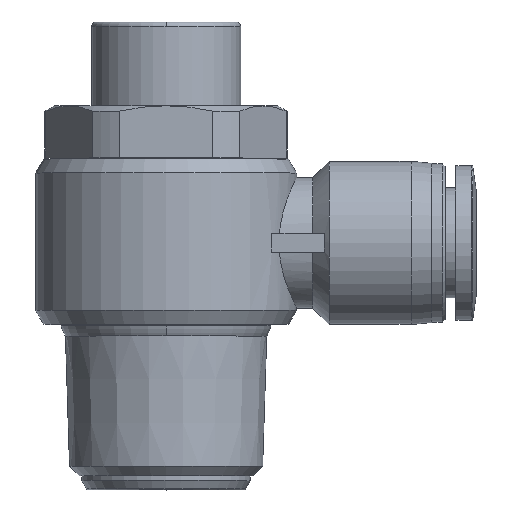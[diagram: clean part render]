
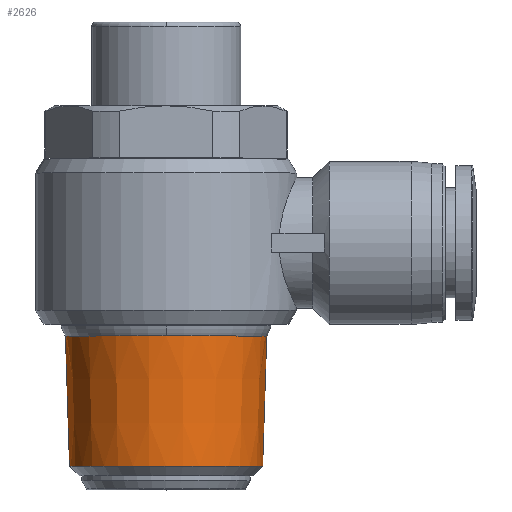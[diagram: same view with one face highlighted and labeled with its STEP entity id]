
A CAD part, top view. The second image highlights one B-rep face of the part: STEP entity #2626.
In plain terms, the highlighted conical face has half-angle 1.79 degrees and reference radius 10.582 mm.
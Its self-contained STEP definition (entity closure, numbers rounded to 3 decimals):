
#48 = AXIS2_PLACEMENT_3D ( 'NONE', #2554, #3103, #1201 ) ;
#75 = VERTEX_POINT ( 'NONE', #2955 ) ;
#101 = CARTESIAN_POINT ( 'NONE',  ( 0., 16.5, 0. ) ) ;
#105 = ORIENTED_EDGE ( 'NONE', *, *, #621, .T. ) ;
#324 = AXIS2_PLACEMENT_3D ( 'NONE', #2082, #3771, #1123 ) ;
#335 = ORIENTED_EDGE ( 'NONE', *, *, #2884, .F. ) ;
#526 = EDGE_LOOP ( 'NONE', ( #2478, #105, #2023, #335, #2687 ) ) ;
#621 = EDGE_CURVE ( 'NONE', #2709, #75, #2886, .T. ) ;
#682 = CARTESIAN_POINT ( 'NONE',  ( 0., 16.5, 10.8 ) ) ;
#726 = CARTESIAN_POINT ( 'NONE',  ( 10.363, 2.532, 0. ) ) ;
#1123 = DIRECTION ( 'NONE',  ( -1., 0., 0. ) ) ;
#1201 = DIRECTION ( 'NONE',  ( -1., 0., 0. ) ) ;
#1289 = CARTESIAN_POINT ( 'NONE',  ( -10.8, 16.5, 0. ) ) ;
#1394 = DIRECTION ( 'NONE',  ( -1., 0., 0. ) ) ;
#1745 = EDGE_CURVE ( 'NONE', #2741, #3797, #1900, .T. ) ;
#1900 = LINE ( 'NONE', #3211, #3535 ) ;
#1987 = DIRECTION ( 'NONE',  ( -1., 0., 0. ) ) ;
#2023 = ORIENTED_EDGE ( 'NONE', *, *, #2357, .F. ) ;
#2082 = CARTESIAN_POINT ( 'NONE',  ( 0., 16.5, 0. ) ) ;
#2174 = CIRCLE ( 'NONE', #324, 10.8 ) ;
#2250 = AXIS2_PLACEMENT_3D ( 'NONE', #3613, #3653, #1987 ) ;
#2251 = CIRCLE ( 'NONE', #48, 10.363 ) ;
#2285 = CARTESIAN_POINT ( 'NONE',  ( 10.582, 9.516, 0. ) ) ;
#2344 = FACE_OUTER_BOUND ( 'NONE', #526, .T. ) ;
#2357 = EDGE_CURVE ( 'NONE', #3773, #75, #2174, .T. ) ;
#2428 = DIRECTION ( 'NONE',  ( 0., 1., 0. ) ) ;
#2478 = ORIENTED_EDGE ( 'NONE', *, *, #4062, .T. ) ;
#2554 = CARTESIAN_POINT ( 'NONE',  ( 0., 2.532, 0. ) ) ;
#2597 = CONICAL_SURFACE ( 'NONE', #2250, 10.582, 0.031 ) ;
#2626 = ADVANCED_FACE ( 'NONE', ( #2344 ), #2597, .T. ) ;
#2687 = ORIENTED_EDGE ( 'NONE', *, *, #1745, .F. ) ;
#2709 = VERTEX_POINT ( 'NONE', #726 ) ;
#2741 = VERTEX_POINT ( 'NONE', #3670 ) ;
#2884 = EDGE_CURVE ( 'NONE', #3797, #3773, #2935, .T. ) ;
#2886 = LINE ( 'NONE', #2285, #3105 ) ;
#2935 = CIRCLE ( 'NONE', #4253, 10.8 ) ;
#2955 = CARTESIAN_POINT ( 'NONE',  ( 10.8, 16.5, 0. ) ) ;
#3103 = DIRECTION ( 'NONE',  ( 0., 1., 0. ) ) ;
#3105 = VECTOR ( 'NONE', #4209, 1000. ) ;
#3211 = CARTESIAN_POINT ( 'NONE',  ( -10.582, 9.516, 0. ) ) ;
#3392 = DIRECTION ( 'NONE',  ( -0.031, 1., 0. ) ) ;
#3535 = VECTOR ( 'NONE', #3392, 1000. ) ;
#3613 = CARTESIAN_POINT ( 'NONE',  ( 0., 9.516, 0. ) ) ;
#3653 = DIRECTION ( 'NONE',  ( 0., 1., 0. ) ) ;
#3670 = CARTESIAN_POINT ( 'NONE',  ( -10.363, 2.532, 0. ) ) ;
#3771 = DIRECTION ( 'NONE',  ( 0., 1., 0. ) ) ;
#3773 = VERTEX_POINT ( 'NONE', #682 ) ;
#3797 = VERTEX_POINT ( 'NONE', #1289 ) ;
#4062 = EDGE_CURVE ( 'NONE', #2741, #2709, #2251, .T. ) ;
#4209 = DIRECTION ( 'NONE',  ( 0.031, 1., 0. ) ) ;
#4253 = AXIS2_PLACEMENT_3D ( 'NONE', #101, #2428, #1394 ) ;
